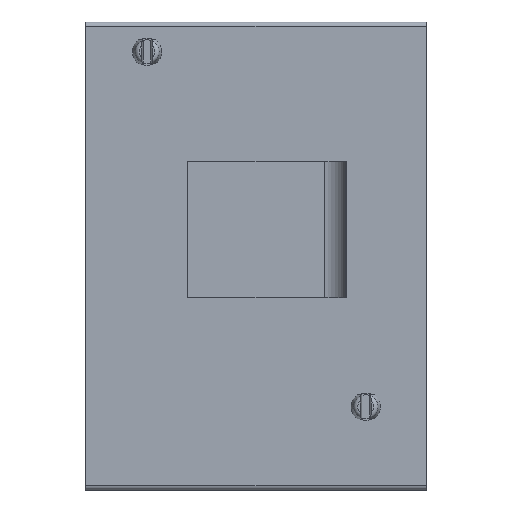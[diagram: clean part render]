
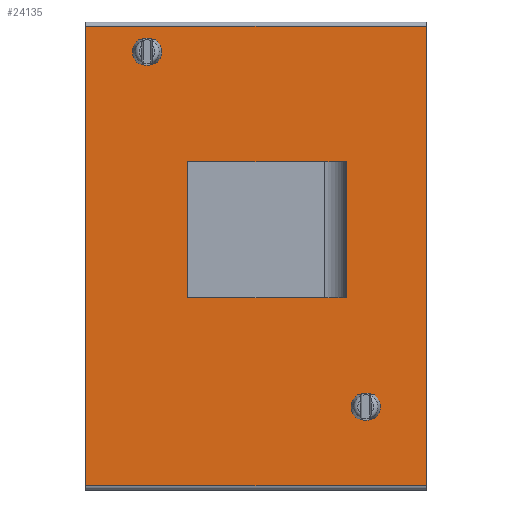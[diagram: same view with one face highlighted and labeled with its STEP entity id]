
A CAD part, front view. The second image highlights one B-rep face of the part: STEP entity #24135.
In plain terms, the highlighted planar face has unit normal (0, -1, 0).
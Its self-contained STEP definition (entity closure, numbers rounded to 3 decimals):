
#216 = VERTEX_POINT ( 'NONE', #23549 ) ;
#484 = VECTOR ( 'NONE', #21443, 1000. ) ;
#1446 = ORIENTED_EDGE ( 'NONE', *, *, #13816, .T. ) ;
#1586 = EDGE_CURVE ( 'NONE', #15825, #10266, #5725, .T. ) ;
#1952 = CARTESIAN_POINT ( 'NONE',  ( 12.9, 0., -17.72 ) ) ;
#2218 = LINE ( 'NONE', #4269, #9459 ) ;
#3096 = ORIENTED_EDGE ( 'NONE', *, *, #13486, .T. ) ;
#3157 = CARTESIAN_POINT ( 'NONE',  ( -20., 0., 27. ) ) ;
#3403 = VERTEX_POINT ( 'NONE', #18888 ) ;
#3749 = VERTEX_POINT ( 'NONE', #19045 ) ;
#4245 = CARTESIAN_POINT ( 'NONE',  ( 20., 0., -27. ) ) ;
#4269 = CARTESIAN_POINT ( 'NONE',  ( -20., 0., 27.5 ) ) ;
#4332 = AXIS2_PLACEMENT_3D ( 'NONE', #14922, #23973, #24450 ) ;
#4365 = DIRECTION ( 'NONE',  ( 0., 1., 0. ) ) ;
#4577 = EDGE_LOOP ( 'NONE', ( #3096, #4937 ) ) ;
#4937 = ORIENTED_EDGE ( 'NONE', *, *, #1586, .T. ) ;
#5158 = CIRCLE ( 'NONE', #4332, 1.6 ) ;
#5288 = ORIENTED_EDGE ( 'NONE', *, *, #12144, .F. ) ;
#5725 = CIRCLE ( 'NONE', #19869, 1.6 ) ;
#5880 = CARTESIAN_POINT ( 'NONE',  ( 0., 0., 27. ) ) ;
#5947 = CARTESIAN_POINT ( 'NONE',  ( 12.9, 0., -17.72 ) ) ;
#6001 = LINE ( 'NONE', #5880, #9505 ) ;
#6903 = CARTESIAN_POINT ( 'NONE',  ( 0., 0., 0. ) ) ;
#7630 = CARTESIAN_POINT ( 'NONE',  ( 20., 0., 27.5 ) ) ;
#7937 = FACE_BOUND ( 'NONE', #20442, .T. ) ;
#8129 = DIRECTION ( 'NONE',  ( -1., 0., 0. ) ) ;
#8185 = DIRECTION ( 'NONE',  ( 0., 0., 1. ) ) ;
#9459 = VECTOR ( 'NONE', #8185, 1000. ) ;
#9505 = VECTOR ( 'NONE', #8129, 1000. ) ;
#9630 = EDGE_CURVE ( 'NONE', #216, #15346, #5158, .T. ) ;
#9710 = DIRECTION ( 'NONE',  ( 0., 0., 1. ) ) ;
#9742 = DIRECTION ( 'NONE',  ( 0., 0., 1. ) ) ;
#9800 = ORIENTED_EDGE ( 'NONE', *, *, #20624, .T. ) ;
#9884 = CARTESIAN_POINT ( 'NONE',  ( -12.8, 0., 25.6 ) ) ;
#10266 = VERTEX_POINT ( 'NONE', #23729 ) ;
#11399 = ORIENTED_EDGE ( 'NONE', *, *, #9630, .T. ) ;
#12144 = EDGE_CURVE ( 'NONE', #3403, #14520, #19513, .T. ) ;
#12598 = VECTOR ( 'NONE', #15334, 1000. ) ;
#13486 = EDGE_CURVE ( 'NONE', #10266, #15825, #24042, .T. ) ;
#13764 = DIRECTION ( 'NONE',  ( 0., 1., 0. ) ) ;
#13816 = EDGE_CURVE ( 'NONE', #3403, #20691, #6001, .T. ) ;
#14120 = DIRECTION ( 'NONE',  ( 0., 1., 0. ) ) ;
#14297 = CARTESIAN_POINT ( 'NONE',  ( 0., 0., -27. ) ) ;
#14520 = VERTEX_POINT ( 'NONE', #4245 ) ;
#14681 = DIRECTION ( 'NONE',  ( 0., 1., 0. ) ) ;
#14922 = CARTESIAN_POINT ( 'NONE',  ( -12.8, 0., 24. ) ) ;
#15058 = CARTESIAN_POINT ( 'NONE',  ( -12.8, 0., 24. ) ) ;
#15334 = DIRECTION ( 'NONE',  ( 0., 0., -1. ) ) ;
#15346 = VERTEX_POINT ( 'NONE', #9884 ) ;
#15641 = FACE_BOUND ( 'NONE', #4577, .T. ) ;
#15760 = PLANE ( 'NONE',  #23772 ) ;
#15825 = VERTEX_POINT ( 'NONE', #20207 ) ;
#16710 = DIRECTION ( 'NONE',  ( 0., 0., 1. ) ) ;
#18446 = ORIENTED_EDGE ( 'NONE', *, *, #20795, .F. ) ;
#18888 = CARTESIAN_POINT ( 'NONE',  ( 20., 0., 27. ) ) ;
#19045 = CARTESIAN_POINT ( 'NONE',  ( -20., 0., -27. ) ) ;
#19513 = LINE ( 'NONE', #7630, #12598 ) ;
#19548 = CIRCLE ( 'NONE', #21157, 1.6 ) ;
#19577 = AXIS2_PLACEMENT_3D ( 'NONE', #1952, #4365, #9710 ) ;
#19869 = AXIS2_PLACEMENT_3D ( 'NONE', #5947, #13764, #9742 ) ;
#20130 = LINE ( 'NONE', #14297, #484 ) ;
#20207 = CARTESIAN_POINT ( 'NONE',  ( 12.9, 0., -19.32 ) ) ;
#20442 = EDGE_LOOP ( 'NONE', ( #9800, #11399 ) ) ;
#20624 = EDGE_CURVE ( 'NONE', #15346, #216, #19548, .T. ) ;
#20691 = VERTEX_POINT ( 'NONE', #3157 ) ;
#20795 = EDGE_CURVE ( 'NONE', #3749, #20691, #2218, .T. ) ;
#21157 = AXIS2_PLACEMENT_3D ( 'NONE', #15058, #14681, #16710 ) ;
#21443 = DIRECTION ( 'NONE',  ( 1., 0., 0. ) ) ;
#22725 = EDGE_LOOP ( 'NONE', ( #18446, #24337, #5288, #1446 ) ) ;
#22826 = EDGE_CURVE ( 'NONE', #3749, #14520, #20130, .T. ) ;
#23398 = FACE_OUTER_BOUND ( 'NONE', #22725, .T. ) ;
#23549 = CARTESIAN_POINT ( 'NONE',  ( -12.8, 0., 22.4 ) ) ;
#23729 = CARTESIAN_POINT ( 'NONE',  ( 12.9, 0., -16.12 ) ) ;
#23772 = AXIS2_PLACEMENT_3D ( 'NONE', #6903, #14120, #23780 ) ;
#23780 = DIRECTION ( 'NONE',  ( 1., 0., 0. ) ) ;
#23973 = DIRECTION ( 'NONE',  ( 0., 1., 0. ) ) ;
#24042 = CIRCLE ( 'NONE', #19577, 1.6 ) ;
#24135 = ADVANCED_FACE ( 'NONE', ( #7937, #15641, #23398 ), #15760, .F. ) ;
#24337 = ORIENTED_EDGE ( 'NONE', *, *, #22826, .T. ) ;
#24450 = DIRECTION ( 'NONE',  ( 0., 0., 1. ) ) ;
